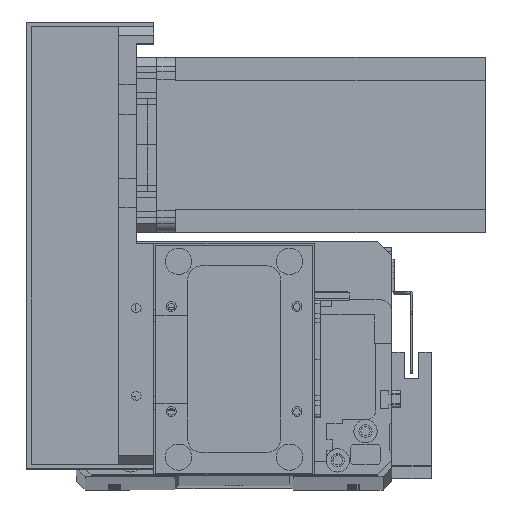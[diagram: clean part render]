
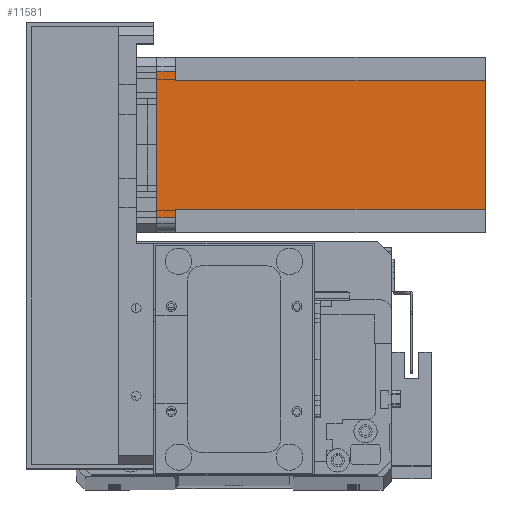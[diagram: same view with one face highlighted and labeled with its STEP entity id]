
A CAD part, top view. The second image highlights one B-rep face of the part: STEP entity #11581.
In plain terms, the highlighted planar face has unit normal (0, 0, 1) as drawn and (0, -1, 0) by its records, which use the part's own axes.
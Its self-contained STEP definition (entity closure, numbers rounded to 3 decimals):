
#1097 = VECTOR ( 'NONE', #12944, 1000. ) ;
#1323 = CARTESIAN_POINT ( 'NONE',  ( 0., 0., -112.5 ) ) ;
#2017 = ORIENTED_EDGE ( 'NONE', *, *, #16890, .F. ) ;
#2249 = DIRECTION ( 'NONE',  ( 1., 0., 0. ) ) ;
#3922 = DIRECTION ( 'NONE',  ( 0., 0., 1. ) ) ;
#4239 = VERTEX_POINT ( 'NONE', #33021 ) ;
#4752 = VECTOR ( 'NONE', #20072, 1000. ) ;
#6112 = VECTOR ( 'NONE', #10119, 1000. ) ;
#6516 = LINE ( 'NONE', #7966, #33804 ) ;
#6818 = AXIS2_PLACEMENT_3D ( 'NONE', #16472, #32348, #16591 ) ;
#6919 = VERTEX_POINT ( 'NONE', #10713 ) ;
#7629 = ORIENTED_EDGE ( 'NONE', *, *, #33463, .F. ) ;
#7768 = CARTESIAN_POINT ( 'NONE',  ( 55., 0., 0. ) ) ;
#7966 = CARTESIAN_POINT ( 'NONE',  ( 8., 0., -6.5 ) ) ;
#8343 = EDGE_CURVE ( 'NONE', #19343, #10273, #28596, .T. ) ;
#9026 = VECTOR ( 'NONE', #24594, 1000. ) ;
#9178 = VECTOR ( 'NONE', #2249, 1000. ) ;
#10119 = DIRECTION ( 'NONE',  ( 0., 0., -1. ) ) ;
#10273 = VERTEX_POINT ( 'NONE', #7768 ) ;
#10285 = CARTESIAN_POINT ( 'NONE',  ( 0., 0., 0. ) ) ;
#10713 = CARTESIAN_POINT ( 'NONE',  ( 5., 0., 0. ) ) ;
#10731 = LINE ( 'NONE', #18009, #6112 ) ;
#11581 = ADVANCED_FACE ( 'NONE', ( #12666 ), #13928, .T. ) ;
#11667 = VECTOR ( 'NONE', #16647, 1000. ) ;
#12540 = VERTEX_POINT ( 'NONE', #22564 ) ;
#12666 = FACE_OUTER_BOUND ( 'NONE', #24477, .T. ) ;
#12944 = DIRECTION ( 'NONE',  ( 0., 0., 1. ) ) ;
#13928 = PLANE ( 'NONE',  #6818 ) ;
#14170 = VERTEX_POINT ( 'NONE', #31988 ) ;
#14795 = EDGE_CURVE ( 'NONE', #14170, #19343, #31908, .T. ) ;
#15651 = CARTESIAN_POINT ( 'NONE',  ( 55., 0., -6.5 ) ) ;
#16187 = EDGE_CURVE ( 'NONE', #6919, #12540, #10731, .T. ) ;
#16472 = CARTESIAN_POINT ( 'NONE',  ( 0., 0., -112.5 ) ) ;
#16591 = DIRECTION ( 'NONE',  ( 0., 0., -1. ) ) ;
#16647 = DIRECTION ( 'NONE',  ( 1., 0., 0. ) ) ;
#16650 = CARTESIAN_POINT ( 'NONE',  ( 52., 0., -112.5 ) ) ;
#16890 = EDGE_CURVE ( 'NONE', #30634, #12540, #6516, .T. ) ;
#17072 = LINE ( 'NONE', #10285, #9178 ) ;
#18009 = CARTESIAN_POINT ( 'NONE',  ( 5., 0., -112.5 ) ) ;
#18463 = ORIENTED_EDGE ( 'NONE', *, *, #8343, .T. ) ;
#19320 = LINE ( 'NONE', #22589, #27160 ) ;
#19343 = VERTEX_POINT ( 'NONE', #15651 ) ;
#19537 = CARTESIAN_POINT ( 'NONE',  ( 8., 0., -6.5 ) ) ;
#20072 = DIRECTION ( 'NONE',  ( 1., 0., 0. ) ) ;
#21476 = ORIENTED_EDGE ( 'NONE', *, *, #16187, .T. ) ;
#21938 = CARTESIAN_POINT ( 'NONE',  ( 52., 0., -6.5 ) ) ;
#21988 = ORIENTED_EDGE ( 'NONE', *, *, #30331, .F. ) ;
#22564 = CARTESIAN_POINT ( 'NONE',  ( 5., 0., -6.5 ) ) ;
#22589 = CARTESIAN_POINT ( 'NONE',  ( 8., 0., -112.5 ) ) ;
#23095 = LINE ( 'NONE', #16650, #9026 ) ;
#23443 = CARTESIAN_POINT ( 'NONE',  ( 55., 0., -112.5 ) ) ;
#23450 = EDGE_CURVE ( 'NONE', #24180, #4239, #32967, .T. ) ;
#24180 = VERTEX_POINT ( 'NONE', #31047 ) ;
#24477 = EDGE_LOOP ( 'NONE', ( #31580, #18463, #21988, #21476, #2017, #29893, #27079, #7629 ) ) ;
#24594 = DIRECTION ( 'NONE',  ( 0., 0., -1. ) ) ;
#26304 = EDGE_CURVE ( 'NONE', #24180, #30634, #19320, .T. ) ;
#27079 = ORIENTED_EDGE ( 'NONE', *, *, #23450, .T. ) ;
#27160 = VECTOR ( 'NONE', #3922, 1000. ) ;
#28596 = LINE ( 'NONE', #23443, #1097 ) ;
#29893 = ORIENTED_EDGE ( 'NONE', *, *, #26304, .F. ) ;
#30331 = EDGE_CURVE ( 'NONE', #6919, #10273, #17072, .T. ) ;
#30634 = VERTEX_POINT ( 'NONE', #19537 ) ;
#31047 = CARTESIAN_POINT ( 'NONE',  ( 8., 0., -112.5 ) ) ;
#31580 = ORIENTED_EDGE ( 'NONE', *, *, #14795, .T. ) ;
#31881 = DIRECTION ( 'NONE',  ( -1., 0., 0. ) ) ;
#31908 = LINE ( 'NONE', #21938, #11667 ) ;
#31988 = CARTESIAN_POINT ( 'NONE',  ( 52., 0., -6.5 ) ) ;
#32348 = DIRECTION ( 'NONE',  ( 0., -1., 0. ) ) ;
#32967 = LINE ( 'NONE', #1323, #4752 ) ;
#33021 = CARTESIAN_POINT ( 'NONE',  ( 52., 0., -112.5 ) ) ;
#33463 = EDGE_CURVE ( 'NONE', #14170, #4239, #23095, .T. ) ;
#33804 = VECTOR ( 'NONE', #31881, 1000. ) ;
